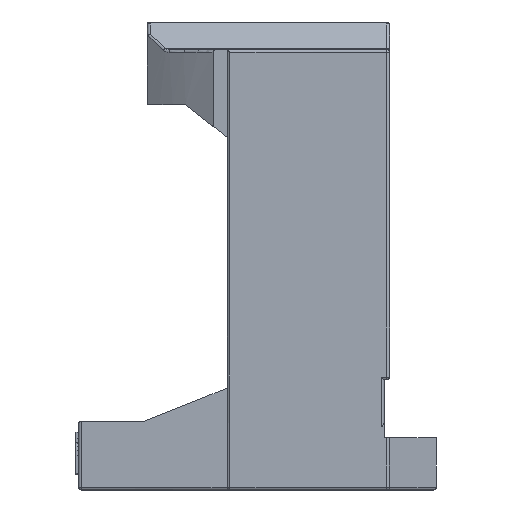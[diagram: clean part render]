
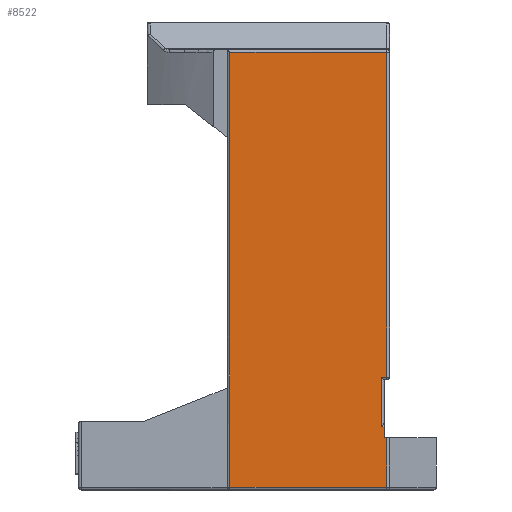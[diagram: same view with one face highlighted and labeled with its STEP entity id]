
A CAD part, left-side view. The second image highlights one B-rep face of the part: STEP entity #8522.
In plain terms, the highlighted planar face has unit normal (-1, 0, 0).
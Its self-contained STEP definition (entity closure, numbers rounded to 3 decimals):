
#1209=DIRECTION('',(0.,-1.,0.));
#1210=VECTOR('',#1209,57.);
#1211=CARTESIAN_POINT('',(-75.,10.,159.));
#1212=LINE('',#1211,#1210);
#1226=DIRECTION('',(0.,0.,1.));
#1227=VECTOR('',#1226,158.);
#1228=CARTESIAN_POINT('',(-75.,10.,1.));
#1229=LINE('',#1228,#1227);
#2170=DIRECTION('',(0.,1.,0.));
#2171=VECTOR('',#2170,2.);
#2172=CARTESIAN_POINT('',(-75.,-47.,41.));
#2173=LINE('',#2172,#2171);
#2182=DIRECTION('',(0.,0.,-1.));
#2183=VECTOR('',#2182,18.);
#2184=CARTESIAN_POINT('',(-75.,-45.,41.));
#2185=LINE('',#2184,#2183);
#2200=DIRECTION('',(0.,-1.,0.));
#2201=VECTOR('',#2200,1.);
#2202=CARTESIAN_POINT('',(-75.,-45.,23.));
#2203=LINE('',#2202,#2201);
#2213=DIRECTION('',(0.,1.,0.));
#2214=VECTOR('',#2213,1.);
#2215=CARTESIAN_POINT('',(-75.,-47.,19.));
#2216=LINE('',#2215,#2214);
#2217=DIRECTION('',(0.,0.,1.));
#2218=VECTOR('',#2217,4.);
#2219=CARTESIAN_POINT('',(-75.,-46.,19.));
#2220=LINE('',#2219,#2218);
#3482=DIRECTION('',(0.,1.,0.));
#3483=VECTOR('',#3482,57.);
#3484=CARTESIAN_POINT('',(-75.,-47.,1.));
#3485=LINE('',#3484,#3483);
#3495=DIRECTION('',(0.,0.,-1.));
#3496=VECTOR('',#3495,18.);
#3497=CARTESIAN_POINT('',(-75.,-47.,19.));
#3498=LINE('',#3497,#3496);
#3519=DIRECTION('',(0.,0.,-1.));
#3520=VECTOR('',#3519,118.);
#3521=CARTESIAN_POINT('',(-75.,-47.,159.));
#3522=LINE('',#3521,#3520);
#4746=CARTESIAN_POINT('',(-75.,-47.,159.));
#4747=CARTESIAN_POINT('',(-75.,-47.,41.));
#4748=VERTEX_POINT('',#4746);
#4749=VERTEX_POINT('',#4747);
#4750=CARTESIAN_POINT('',(-75.,10.,159.));
#4751=VERTEX_POINT('',#4750);
#4752=CARTESIAN_POINT('',(-75.,10.,1.));
#4753=VERTEX_POINT('',#4752);
#4754=CARTESIAN_POINT('',(-75.,-47.,1.));
#4755=VERTEX_POINT('',#4754);
#4756=CARTESIAN_POINT('',(-75.,-45.,41.));
#4757=CARTESIAN_POINT('',(-75.,-45.,23.));
#4758=VERTEX_POINT('',#4756);
#4759=VERTEX_POINT('',#4757);
#5736=CARTESIAN_POINT('',(-75.,-47.,19.));
#5737=CARTESIAN_POINT('',(-75.,-46.,19.));
#5738=VERTEX_POINT('',#5736);
#5739=VERTEX_POINT('',#5737);
#5740=CARTESIAN_POINT('',(-75.,-46.,23.));
#5741=VERTEX_POINT('',#5740);
#8501=CARTESIAN_POINT('',(-75.,72.5,25.));
#8502=DIRECTION('',(1.,0.,0.));
#8503=DIRECTION('',(0.,-1.,0.));
#8504=AXIS2_PLACEMENT_3D('',#8501,#8502,#8503);
#8505=PLANE('',#8504);
#8507=ORIENTED_EDGE('',*,*,#8506,.F.);
#8509=ORIENTED_EDGE('',*,*,#8508,.T.);
#8511=ORIENTED_EDGE('',*,*,#8510,.T.);
#8512=ORIENTED_EDGE('',*,*,#7413,.T.);
#8513=ORIENTED_EDGE('',*,*,#7399,.T.);
#8515=ORIENTED_EDGE('',*,*,#8514,.T.);
#8516=ORIENTED_EDGE('',*,*,#8467,.T.);
#8517=ORIENTED_EDGE('',*,*,#8483,.T.);
#8518=ORIENTED_EDGE('',*,*,#8495,.T.);
#8519=ORIENTED_EDGE('',*,*,#8337,.F.);
#8520=EDGE_LOOP('',(#8507,#8509,#8511,#8512,#8513,#8515,#8516,#8517,#8518,
#8519));
#8521=FACE_OUTER_BOUND('',#8520,.F.);
#7399=EDGE_CURVE('',#4751,#4748,#1212,.T.);
#7413=EDGE_CURVE('',#4753,#4751,#1229,.T.);
#8337=EDGE_CURVE('',#5739,#5741,#2220,.T.);
#8467=EDGE_CURVE('',#4749,#4758,#2173,.T.);
#8483=EDGE_CURVE('',#4758,#4759,#2185,.T.);
#8495=EDGE_CURVE('',#4759,#5741,#2203,.T.);
#8506=EDGE_CURVE('',#5738,#5739,#2216,.T.);
#8508=EDGE_CURVE('',#5738,#4755,#3498,.T.);
#8510=EDGE_CURVE('',#4755,#4753,#3485,.T.);
#8514=EDGE_CURVE('',#4748,#4749,#3522,.T.);
#8522=ADVANCED_FACE('',(#8521),#8505,.F.);
